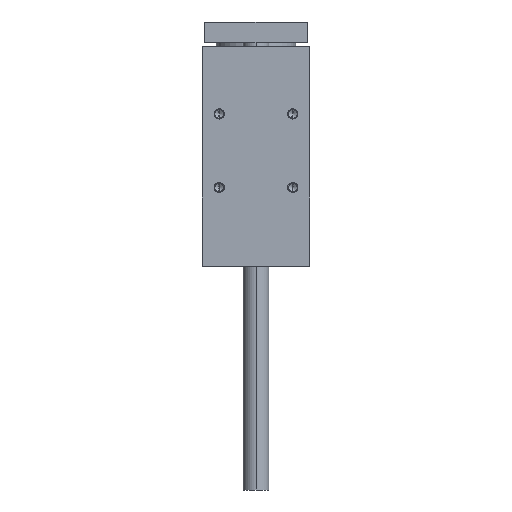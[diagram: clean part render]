
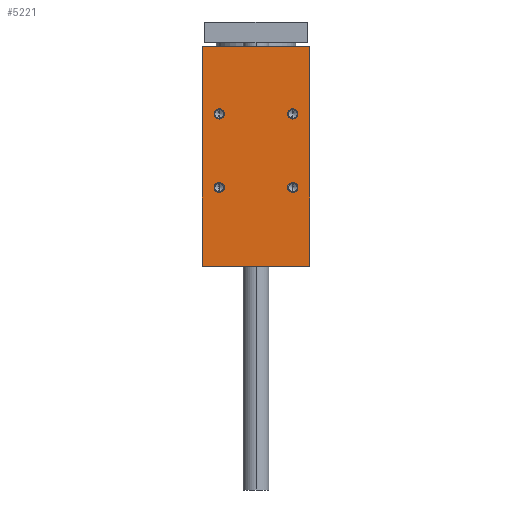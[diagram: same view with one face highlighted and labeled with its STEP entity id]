
A CAD part, left-side view. The second image highlights one B-rep face of the part: STEP entity #5221.
In plain terms, the highlighted planar face has unit normal (-1, 0, 0).
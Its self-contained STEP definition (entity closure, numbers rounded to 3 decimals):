
#62 = DIRECTION ( 'NONE',  ( 1., 0., 0. ) ) ;
#254 = LINE ( 'NONE', #2344, #4027 ) ;
#255 = CARTESIAN_POINT ( 'NONE',  ( -94.5, -36., -46. ) ) ;
#286 = ORIENTED_EDGE ( 'NONE', *, *, #8218, .F. ) ;
#417 = ORIENTED_EDGE ( 'NONE', *, *, #8357, .T. ) ;
#426 = ORIENTED_EDGE ( 'NONE', *, *, #863, .T. ) ;
#653 = CIRCLE ( 'NONE', #5921, 5. ) ;
#799 = FACE_BOUND ( 'NONE', #3520, .T. ) ;
#863 = EDGE_CURVE ( 'NONE', #4765, #9052, #653, .T. ) ;
#901 = VERTEX_POINT ( 'NONE', #9590 ) ;
#1255 = DIRECTION ( 'NONE',  ( 0., 0., -1. ) ) ;
#1314 = VECTOR ( 'NONE', #5033, 1000. ) ;
#1458 = DIRECTION ( 'NONE',  ( 1., 0., 0. ) ) ;
#1532 = VERTEX_POINT ( 'NONE', #2035 ) ;
#1573 = DIRECTION ( 'NONE',  ( 0., 0., 1. ) ) ;
#1581 = PLANE ( 'NONE',  #6069 ) ;
#1603 = VERTEX_POINT ( 'NONE', #3362 ) ;
#1628 = CARTESIAN_POINT ( 'NONE',  ( -94.5, 36., 21. ) ) ;
#1629 = CARTESIAN_POINT ( 'NONE',  ( -94.5, 52.5, 87. ) ) ;
#1677 = FACE_BOUND ( 'NONE', #4600, .T. ) ;
#1709 = DIRECTION ( 'NONE',  ( 0., -1., 0. ) ) ;
#1880 = CIRCLE ( 'NONE', #2825, 5. ) ;
#1989 = EDGE_CURVE ( 'NONE', #4638, #9282, #4986, .T. ) ;
#2035 = CARTESIAN_POINT ( 'NONE',  ( -94.5, -52.5, -128. ) ) ;
#2069 = ORIENTED_EDGE ( 'NONE', *, *, #7342, .T. ) ;
#2203 = CARTESIAN_POINT ( 'NONE',  ( -94.5, -36., -51. ) ) ;
#2237 = CARTESIAN_POINT ( 'NONE',  ( -94.5, 36., 26. ) ) ;
#2290 = CARTESIAN_POINT ( 'NONE',  ( -94.5, -36., -56. ) ) ;
#2308 = FACE_BOUND ( 'NONE', #9506, .T. ) ;
#2330 = EDGE_CURVE ( 'NONE', #3152, #1603, #3878, .T. ) ;
#2344 = CARTESIAN_POINT ( 'NONE',  ( -94.5, 52.5, -128. ) ) ;
#2428 = DIRECTION ( 'NONE',  ( 0., 0., -1. ) ) ;
#2792 = LINE ( 'NONE', #6487, #1314 ) ;
#2825 = AXIS2_PLACEMENT_3D ( 'NONE', #4501, #7607, #2428 ) ;
#2835 = CARTESIAN_POINT ( 'NONE',  ( -94.5, -36., -51. ) ) ;
#2944 = CIRCLE ( 'NONE', #7749, 5. ) ;
#2998 = DIRECTION ( 'NONE',  ( 1., 0., 0. ) ) ;
#3084 = LINE ( 'NONE', #8225, #5167 ) ;
#3124 = EDGE_CURVE ( 'NONE', #1532, #1603, #3084, .T. ) ;
#3152 = VERTEX_POINT ( 'NONE', #1629 ) ;
#3362 = CARTESIAN_POINT ( 'NONE',  ( -94.5, -52.5, 87. ) ) ;
#3520 = EDGE_LOOP ( 'NONE', ( #5336, #5272 ) ) ;
#3595 = ORIENTED_EDGE ( 'NONE', *, *, #3124, .T. ) ;
#3621 = CARTESIAN_POINT ( 'NONE',  ( -94.5, 36., -51. ) ) ;
#3660 = CARTESIAN_POINT ( 'NONE',  ( -94.5, 52.5, 87. ) ) ;
#3706 = CARTESIAN_POINT ( 'NONE',  ( -94.5, 36., 16. ) ) ;
#3819 = DIRECTION ( 'NONE',  ( 0., 1., 0. ) ) ;
#3878 = LINE ( 'NONE', #3660, #8570 ) ;
#4004 = EDGE_CURVE ( 'NONE', #9052, #4765, #2944, .T. ) ;
#4027 = VECTOR ( 'NONE', #1709, 1000. ) ;
#4070 = EDGE_CURVE ( 'NONE', #8788, #1532, #254, .T. ) ;
#4422 = EDGE_CURVE ( 'NONE', #7290, #9467, #4969, .T. ) ;
#4445 = CARTESIAN_POINT ( 'NONE',  ( -94.5, 52.5, -128. ) ) ;
#4446 = ORIENTED_EDGE ( 'NONE', *, *, #2330, .F. ) ;
#4501 = CARTESIAN_POINT ( 'NONE',  ( -94.5, -36., 21. ) ) ;
#4581 = DIRECTION ( 'NONE',  ( 1., 0., 0. ) ) ;
#4600 = EDGE_LOOP ( 'NONE', ( #426, #7579 ) ) ;
#4616 = CARTESIAN_POINT ( 'NONE',  ( -94.5, 52.5, -128. ) ) ;
#4638 = VERTEX_POINT ( 'NONE', #2237 ) ;
#4765 = VERTEX_POINT ( 'NONE', #9575 ) ;
#4850 = CIRCLE ( 'NONE', #5631, 5. ) ;
#4899 = EDGE_CURVE ( 'NONE', #6662, #901, #1880, .T. ) ;
#4969 = CIRCLE ( 'NONE', #5120, 5. ) ;
#4986 = CIRCLE ( 'NONE', #5141, 5. ) ;
#5033 = DIRECTION ( 'NONE',  ( 0., 0., 1. ) ) ;
#5120 = AXIS2_PLACEMENT_3D ( 'NONE', #2835, #7352, #5793 ) ;
#5123 = CARTESIAN_POINT ( 'NONE',  ( -94.5, 36., -51. ) ) ;
#5141 = AXIS2_PLACEMENT_3D ( 'NONE', #1628, #8860, #7447 ) ;
#5167 = VECTOR ( 'NONE', #1573, 1000. ) ;
#5181 = FACE_OUTER_BOUND ( 'NONE', #9250, .T. ) ;
#5221 = ADVANCED_FACE ( 'NONE', ( #5181, #8342, #1677, #799, #2308 ), #1581, .F. ) ;
#5272 = ORIENTED_EDGE ( 'NONE', *, *, #8492, .T. ) ;
#5336 = ORIENTED_EDGE ( 'NONE', *, *, #4899, .T. ) ;
#5344 = AXIS2_PLACEMENT_3D ( 'NONE', #2203, #62, #5940 ) ;
#5351 = DIRECTION ( 'NONE',  ( 0., -1., 0. ) ) ;
#5363 = DIRECTION ( 'NONE',  ( 0., 0., -1. ) ) ;
#5631 = AXIS2_PLACEMENT_3D ( 'NONE', #5776, #1458, #1255 ) ;
#5707 = CARTESIAN_POINT ( 'NONE',  ( -94.5, -36., 26. ) ) ;
#5776 = CARTESIAN_POINT ( 'NONE',  ( -94.5, 36., 21. ) ) ;
#5793 = DIRECTION ( 'NONE',  ( 0., 0., -1. ) ) ;
#5921 = AXIS2_PLACEMENT_3D ( 'NONE', #3621, #4581, #6722 ) ;
#5940 = DIRECTION ( 'NONE',  ( 0., 0., -1. ) ) ;
#5964 = ORIENTED_EDGE ( 'NONE', *, *, #4422, .T. ) ;
#6054 = EDGE_LOOP ( 'NONE', ( #417, #5964 ) ) ;
#6069 = AXIS2_PLACEMENT_3D ( 'NONE', #4445, #2998, #3819 ) ;
#6487 = CARTESIAN_POINT ( 'NONE',  ( -94.5, 52.5, -128. ) ) ;
#6545 = DIRECTION ( 'NONE',  ( 0., 0., -1. ) ) ;
#6563 = AXIS2_PLACEMENT_3D ( 'NONE', #6865, #8514, #5363 ) ;
#6610 = ORIENTED_EDGE ( 'NONE', *, *, #1989, .T. ) ;
#6662 = VERTEX_POINT ( 'NONE', #5707 ) ;
#6722 = DIRECTION ( 'NONE',  ( 0., 0., -1. ) ) ;
#6865 = CARTESIAN_POINT ( 'NONE',  ( -94.5, -36., 21. ) ) ;
#6899 = CIRCLE ( 'NONE', #5344, 5. ) ;
#7290 = VERTEX_POINT ( 'NONE', #2290 ) ;
#7322 = DIRECTION ( 'NONE',  ( 1., 0., 0. ) ) ;
#7342 = EDGE_CURVE ( 'NONE', #9282, #4638, #4850, .T. ) ;
#7352 = DIRECTION ( 'NONE',  ( 1., 0., 0. ) ) ;
#7447 = DIRECTION ( 'NONE',  ( 0., 0., -1. ) ) ;
#7552 = CARTESIAN_POINT ( 'NONE',  ( -94.5, 36., -56. ) ) ;
#7579 = ORIENTED_EDGE ( 'NONE', *, *, #4004, .T. ) ;
#7607 = DIRECTION ( 'NONE',  ( 1., 0., 0. ) ) ;
#7683 = ORIENTED_EDGE ( 'NONE', *, *, #4070, .T. ) ;
#7749 = AXIS2_PLACEMENT_3D ( 'NONE', #5123, #7322, #6545 ) ;
#8103 = CIRCLE ( 'NONE', #6563, 5. ) ;
#8218 = EDGE_CURVE ( 'NONE', #8788, #3152, #2792, .T. ) ;
#8225 = CARTESIAN_POINT ( 'NONE',  ( -94.5, -52.5, -128. ) ) ;
#8342 = FACE_BOUND ( 'NONE', #6054, .T. ) ;
#8357 = EDGE_CURVE ( 'NONE', #9467, #7290, #6899, .T. ) ;
#8492 = EDGE_CURVE ( 'NONE', #901, #6662, #8103, .T. ) ;
#8514 = DIRECTION ( 'NONE',  ( 1., 0., 0. ) ) ;
#8570 = VECTOR ( 'NONE', #5351, 1000. ) ;
#8788 = VERTEX_POINT ( 'NONE', #4616 ) ;
#8860 = DIRECTION ( 'NONE',  ( 1., 0., 0. ) ) ;
#9052 = VERTEX_POINT ( 'NONE', #7552 ) ;
#9250 = EDGE_LOOP ( 'NONE', ( #3595, #4446, #286, #7683 ) ) ;
#9282 = VERTEX_POINT ( 'NONE', #3706 ) ;
#9467 = VERTEX_POINT ( 'NONE', #255 ) ;
#9506 = EDGE_LOOP ( 'NONE', ( #6610, #2069 ) ) ;
#9575 = CARTESIAN_POINT ( 'NONE',  ( -94.5, 36., -46. ) ) ;
#9590 = CARTESIAN_POINT ( 'NONE',  ( -94.5, -36., 16. ) ) ;
